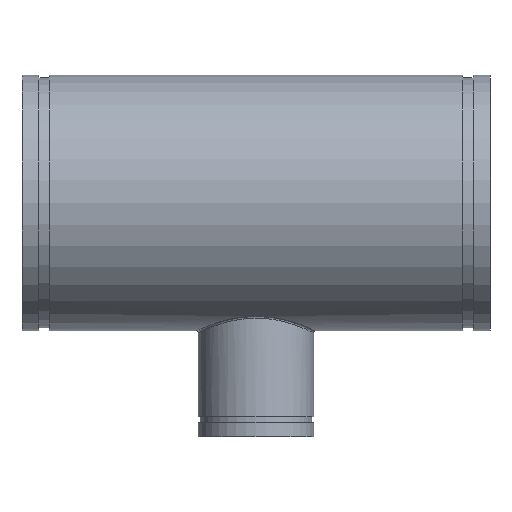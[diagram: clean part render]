
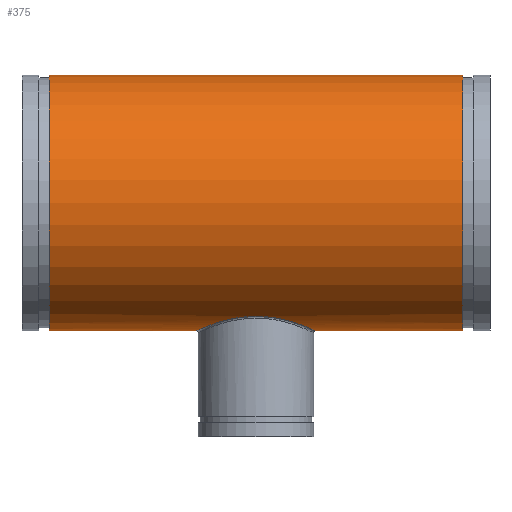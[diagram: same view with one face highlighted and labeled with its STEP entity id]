
A CAD part, top view. The second image highlights one B-rep face of the part: STEP entity #375.
In plain terms, the highlighted cylindrical face has radius 194.31 mm (diameter 388.62 mm), a full revolution.
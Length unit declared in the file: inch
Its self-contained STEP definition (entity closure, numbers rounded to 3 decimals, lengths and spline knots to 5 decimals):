
#54=FACE_BOUND('',#119,.T.);
#65=LINE('',#791,#76);
#76=VECTOR('',#483,7.65);
#87=CYLINDRICAL_SURFACE('',#415,7.65);
#98=FACE_OUTER_BOUND('',#118,.T.);
#118=EDGE_LOOP('',(#266,#267,#268,#269));
#119=EDGE_LOOP('',(#270));
#150=B_SPLINE_CURVE_WITH_KNOTS('',3,(#763,#764,#765,#766,#767,#768,#769,
#770,#771,#772,#773,#774,#775,#776,#777,#778,#779,#780,#781,#782,#783,#784,
#785,#786),.UNSPECIFIED.,.T.,.F.,(4,1,1,1,1,1,1,1,1,1,1,1,1,1,1,1,1,1,1,
1,1,4),(-53.66908,-51.75233,-49.83557,-46.00207,
-43.4464,-42.16856,-40.89073,-38.33506,-35.77939,
-33.22372,-30.66804,-28.11237,-25.5567,
-23.00103,-17.88969,-15.33402,-12.77835,
-10.22268,-7.66701,-3.83351,-1.91675,
0.),.UNSPECIFIED.);
#154=CIRCLE('',#416,7.65);
#155=CIRCLE('',#417,7.65);
#182=VERTEX_POINT('',#731);
#185=VERTEX_POINT('',#788);
#186=VERTEX_POINT('',#790);
#219=EDGE_CURVE('',#182,#182,#150,.T.);
#220=EDGE_CURVE('',#185,#185,#154,.T.);
#221=EDGE_CURVE('',#185,#186,#65,.T.);
#222=EDGE_CURVE('',#186,#186,#155,.T.);
#266=ORIENTED_EDGE('',*,*,#220,.T.);
#267=ORIENTED_EDGE('',*,*,#221,.T.);
#268=ORIENTED_EDGE('',*,*,#222,.T.);
#269=ORIENTED_EDGE('',*,*,#221,.F.);
#270=ORIENTED_EDGE('',*,*,#219,.F.);
#375=ADVANCED_FACE('',(#98,#54),#87,.T.);
#415=AXIS2_PLACEMENT_3D('',#787,#479,#480);
#416=AXIS2_PLACEMENT_3D('',#789,#481,#482);
#417=AXIS2_PLACEMENT_3D('',#792,#484,#485);
#479=DIRECTION('center_axis',(-1.,0.,0.));
#480=DIRECTION('ref_axis',(0.,-1.,0.));
#481=DIRECTION('center_axis',(1.,0.,0.));
#482=DIRECTION('ref_axis',(0.,-1.,0.));
#483=DIRECTION('',(1.,0.,0.));
#484=DIRECTION('center_axis',(-1.,0.,0.));
#485=DIRECTION('ref_axis',(0.,-1.,0.));
#731=CARTESIAN_POINT('',(0.,-6.79334,-3.51752));
#763=CARTESIAN_POINT('Ctrl Pts',(0.,-6.79334,
-3.51752));
#764=CARTESIAN_POINT('Ctrl Pts',(0.27133,-6.79334,-3.51752));
#765=CARTESIAN_POINT('Ctrl Pts',(0.81375,-6.82553,-3.45629));
#766=CARTESIAN_POINT('Ctrl Pts',(1.83044,-7.00047,-3.10089));
#767=CARTESIAN_POINT('Ctrl Pts',(2.74004,-7.2966,-2.38422));
#768=CARTESIAN_POINT('Ctrl Pts',(3.28142,-7.52026,-1.47214));
#769=CARTESIAN_POINT('Ctrl Pts',(3.49614,-7.61434,-0.79616));
#770=CARTESIAN_POINT('Ctrl Pts',(3.60609,-7.66418,-0.09189));
#771=CARTESIAN_POINT('Ctrl Pts',(3.53617,-7.63185,0.80743));
#772=CARTESIAN_POINT('Ctrl Pts',(3.13403,-7.45541,1.79811));
#773=CARTESIAN_POINT('Ctrl Pts',(2.46681,-7.20213,2.61595));
#774=CARTESIAN_POINT('Ctrl Pts',(1.58787,-6.95007,3.20966));
#775=CARTESIAN_POINT('Ctrl Pts',(0.55095,-6.78692,3.53077));
#776=CARTESIAN_POINT('Ctrl Pts',(-0.55095,-6.78635,3.53071));
#777=CARTESIAN_POINT('Ctrl Pts',(-1.93346,-7.00551,3.10293));
#778=CARTESIAN_POINT('Ctrl Pts',(-3.00008,-7.39732,2.12851));
#779=CARTESIAN_POINT('Ctrl Pts',(-3.53606,-7.63148,0.80744));
#780=CARTESIAN_POINT('Ctrl Pts',(-3.62026,-7.67092,-0.27178));
#781=CARTESIAN_POINT('Ctrl Pts',(-3.37176,-7.55759,-1.32027));
#782=CARTESIAN_POINT('Ctrl Pts',(-2.73994,-7.29656,-2.38413));
#783=CARTESIAN_POINT('Ctrl Pts',(-1.83047,-7.00048,-3.10094));
#784=CARTESIAN_POINT('Ctrl Pts',(-0.81374,-6.82552,-3.45627));
#785=CARTESIAN_POINT('Ctrl Pts',(-0.27133,-6.79334,-3.51752));
#786=CARTESIAN_POINT('Ctrl Pts',(0.,-6.79334,
-3.51752));
#787=CARTESIAN_POINT('Origin',(14.,0.,0.));
#788=CARTESIAN_POINT('',(-12.36,7.65,0.));
#789=CARTESIAN_POINT('Origin',(-12.36,0.,0.));
#790=CARTESIAN_POINT('',(12.36,7.65,0.));
#791=CARTESIAN_POINT('',(14.,7.65,0.));
#792=CARTESIAN_POINT('Origin',(12.36,0.,0.));
